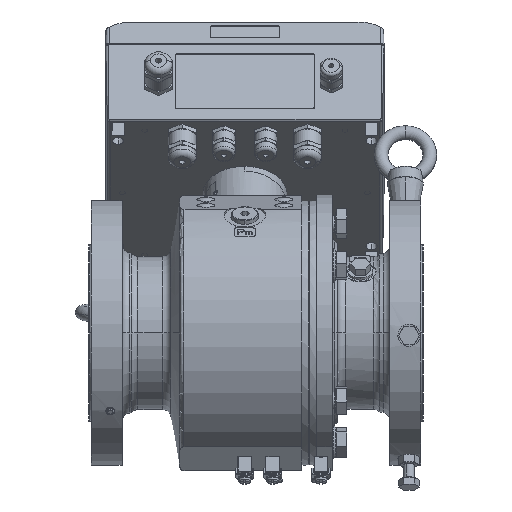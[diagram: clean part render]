
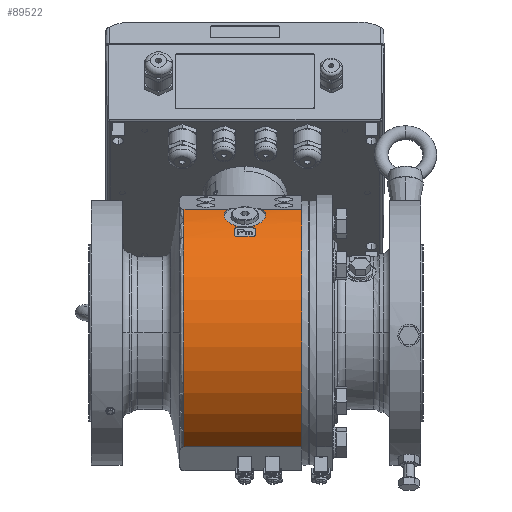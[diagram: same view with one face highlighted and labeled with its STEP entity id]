
A CAD part, front view. The second image highlights one B-rep face of the part: STEP entity #89522.
In plain terms, the highlighted cylindrical face has radius 99 mm (diameter 198 mm), a partial arc.
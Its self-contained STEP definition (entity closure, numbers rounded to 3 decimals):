
#17492=DIRECTION('',(-1.,0.,0.));
#17493=VECTOR('',#17492,28.404);
#17494=CARTESIAN_POINT('',(41.,-43.834,88.767));
#17495=LINE('4592',#17494,#17493);
#17499=CARTESIAN_POINT('',(41.,0.,0.));
#17500=DIRECTION('',(1.,0.,0.));
#17501=DIRECTION('',(0.,-0.443,0.897));
#17502=AXIS2_PLACEMENT_3D('',#17499,#17500,#17501);
#17507=DIRECTION('',(-1.,0.,0.));
#17508=VECTOR('',#17507,84.724);
#17509=CARTESIAN_POINT('',(41.,-55.85,-81.742));
#17510=LINE('4583',#17509,#17508);
#17514=DIRECTION('',(-1.,0.,0.));
#17515=VECTOR('',#17514,31.128);
#17516=CARTESIAN_POINT('',(-12.596,-43.834,
88.767));
#17517=LINE('4593',#17516,#17515);
#17866=CARTESIAN_POINT('',(-43.724,0.,0.));
#17867=DIRECTION('',(1.,0.,0.));
#17868=DIRECTION('',(0.,-0.443,0.897));
#17869=AXIS2_PLACEMENT_3D('',#17866,#17867,#17868);
#32424=CARTESIAN_POINT('',(12.596,-43.834,
88.767));
#32425=CARTESIAN_POINT('',(12.748,-44.045,
88.663));
#32426=CARTESIAN_POINT('',(13.038,-44.474,
88.449));
#32427=CARTESIAN_POINT('',(13.433,-45.135,
88.113));
#32428=CARTESIAN_POINT('',(13.785,-45.811,
87.764));
#32429=CARTESIAN_POINT('',(14.094,-46.5,
87.401));
#32430=CARTESIAN_POINT('',(14.359,-47.198,
87.026));
#32431=CARTESIAN_POINT('',(14.579,-47.905,
86.639));
#32432=CARTESIAN_POINT('',(14.754,-48.616,
86.242));
#32433=CARTESIAN_POINT('',(14.884,-49.332,
85.835));
#32434=CARTESIAN_POINT('',(14.968,-50.048,
85.419));
#32435=CARTESIAN_POINT('',(15.005,-50.764,
84.996));
#32436=CARTESIAN_POINT('',(14.997,-51.477,
84.566));
#32437=CARTESIAN_POINT('',(14.942,-52.184,
84.131));
#32438=CARTESIAN_POINT('',(14.842,-52.886,
83.692));
#32439=CARTESIAN_POINT('',(14.695,-53.577,
83.251));
#32440=CARTESIAN_POINT('',(14.503,-54.258,
82.809));
#32441=CARTESIAN_POINT('',(14.266,-54.926,
82.367));
#32442=CARTESIAN_POINT('',(13.985,-55.58,
81.927));
#32443=CARTESIAN_POINT('',(13.66,-56.217,
81.491));
#32444=CARTESIAN_POINT('',(13.292,-56.836,
81.061));
#32445=CARTESIAN_POINT('',(12.882,-57.435,
80.637));
#32446=CARTESIAN_POINT('',(12.432,-58.011,
80.224));
#32447=CARTESIAN_POINT('',(11.942,-58.565,
79.82));
#32448=CARTESIAN_POINT('',(11.415,-59.093,
79.43));
#32449=CARTESIAN_POINT('',(10.851,-59.595,
79.054));
#32450=CARTESIAN_POINT('',(10.254,-60.069,
78.695));
#32451=CARTESIAN_POINT('',(9.625,-60.513,
78.353));
#32452=CARTESIAN_POINT('',(8.965,-60.927,
78.032));
#32453=CARTESIAN_POINT('',(8.279,-61.31,
77.732));
#32454=CARTESIAN_POINT('',(7.566,-61.66,
77.454));
#32455=CARTESIAN_POINT('',(6.831,-61.977,
77.201));
#32456=CARTESIAN_POINT('',(6.075,-62.26,
76.972));
#32457=CARTESIAN_POINT('',(5.301,-62.508,
76.771));
#32458=CARTESIAN_POINT('',(4.512,-62.722,
76.596));
#32459=CARTESIAN_POINT('',(3.709,-62.901,
76.449));
#32460=CARTESIAN_POINT('',(2.896,-63.044,
76.331));
#32461=CARTESIAN_POINT('',(2.074,-63.151,
76.242));
#32462=CARTESIAN_POINT('',(1.247,-63.223,
76.183));
#32463=CARTESIAN_POINT('',(0.416,-63.259,
76.153));
#32464=CARTESIAN_POINT('',(-0.416,-63.259,
76.153));
#32465=CARTESIAN_POINT('',(-1.247,-63.223,
76.183));
#32466=CARTESIAN_POINT('',(-2.074,-63.151,
76.242));
#32467=CARTESIAN_POINT('',(-2.896,-63.044,
76.331));
#32468=CARTESIAN_POINT('',(-3.709,-62.901,
76.449));
#32469=CARTESIAN_POINT('',(-4.512,-62.722,
76.596));
#32470=CARTESIAN_POINT('',(-5.301,-62.508,
76.771));
#32471=CARTESIAN_POINT('',(-6.075,-62.26,
76.972));
#32472=CARTESIAN_POINT('',(-6.831,-61.977,
77.201));
#32473=CARTESIAN_POINT('',(-7.566,-61.66,
77.454));
#32474=CARTESIAN_POINT('',(-8.279,-61.31,
77.732));
#32475=CARTESIAN_POINT('',(-8.965,-60.927,
78.032));
#32476=CARTESIAN_POINT('',(-9.625,-60.513,
78.353));
#32477=CARTESIAN_POINT('',(-10.254,-60.069,
78.695));
#32478=CARTESIAN_POINT('',(-10.851,-59.595,
79.054));
#32479=CARTESIAN_POINT('',(-11.415,-59.093,
79.43));
#32480=CARTESIAN_POINT('',(-11.942,-58.565,
79.82));
#32481=CARTESIAN_POINT('',(-12.432,-58.011,
80.224));
#32482=CARTESIAN_POINT('',(-12.882,-57.435,
80.637));
#32483=CARTESIAN_POINT('',(-13.292,-56.836,
81.061));
#32484=CARTESIAN_POINT('',(-13.66,-56.217,
81.491));
#32485=CARTESIAN_POINT('',(-13.985,-55.58,
81.927));
#32486=CARTESIAN_POINT('',(-14.266,-54.926,
82.367));
#32487=CARTESIAN_POINT('',(-14.503,-54.258,
82.809));
#32488=CARTESIAN_POINT('',(-14.695,-53.577,
83.251));
#32489=CARTESIAN_POINT('',(-14.842,-52.886,
83.692));
#32490=CARTESIAN_POINT('',(-14.942,-52.184,
84.131));
#32491=CARTESIAN_POINT('',(-14.997,-51.477,
84.566));
#32492=CARTESIAN_POINT('',(-15.005,-50.764,
84.996));
#32493=CARTESIAN_POINT('',(-14.968,-50.048,
85.419));
#32494=CARTESIAN_POINT('',(-14.884,-49.332,
85.835));
#32495=CARTESIAN_POINT('',(-14.754,-48.616,
86.242));
#32496=CARTESIAN_POINT('',(-14.579,-47.905,
86.639));
#32497=CARTESIAN_POINT('',(-14.359,-47.198,
87.026));
#32498=CARTESIAN_POINT('',(-14.094,-46.5,
87.401));
#32499=CARTESIAN_POINT('',(-13.785,-45.811,
87.764));
#32500=CARTESIAN_POINT('',(-13.433,-45.135,
88.113));
#32501=CARTESIAN_POINT('',(-13.038,-44.474,
88.449));
#32502=CARTESIAN_POINT('',(-12.748,-44.045,
88.663));
#32503=CARTESIAN_POINT('',(-12.596,-43.834,
88.767));
#67933=CARTESIAN_POINT('',(41.,-55.85,-81.742));
#67934=CARTESIAN_POINT('',(-43.724,-55.85,
-81.742));
#67935=VERTEX_POINT('',#67933);
#67936=VERTEX_POINT('',#67934);
#67941=CARTESIAN_POINT('',(41.,-43.834,88.767));
#67942=CARTESIAN_POINT('',(12.596,-43.834,
88.767));
#67943=VERTEX_POINT('',#67941);
#67944=VERTEX_POINT('',#67942);
#67945=CARTESIAN_POINT('',(-12.596,-43.834,
88.767));
#67946=CARTESIAN_POINT('',(-43.724,-43.834,
88.767));
#67947=VERTEX_POINT('',#67945);
#67948=VERTEX_POINT('',#67946);
#89505=CARTESIAN_POINT('',(58.3,0.,0.));
#89506=DIRECTION('',(-1.,0.,0.));
#89507=DIRECTION('',(0.,1.,0.));
#89508=AXIS2_PLACEMENT_3D('',#89505,#89506,#89507);
#89509=CYLINDRICAL_SURFACE('3999',#89508,99.);
#89510=ORIENTED_EDGE('4592',*,*,#89452,.F.);
#89512=ORIENTED_EDGE('4597',*,*,#89511,.T.);
#89514=ORIENTED_EDGE('4583',*,*,#89513,.T.);
#89516=ORIENTED_EDGE('4599',*,*,#89515,.F.);
#89517=ORIENTED_EDGE('4593',*,*,#89460,.F.);
#89519=ORIENTED_EDGE('4621',*,*,#89518,.F.);
#89520=EDGE_LOOP('3999',(#89510,#89512,#89514,#89516,#89517,#89519));
#89521=FACE_OUTER_BOUND('3999',#89520,.F.);
#17503=CIRCLE('4597',#17502,99.);
#17870=CIRCLE('4599',#17869,99.);
#32504=B_SPLINE_CURVE_WITH_KNOTS('4621',3,(#32424,#32425,#32426,#32427,#32428,
#32429,#32430,#32431,#32432,#32433,#32434,#32435,#32436,#32437,#32438,#32439,
#32440,#32441,#32442,#32443,#32444,#32445,#32446,#32447,#32448,#32449,#32450,
#32451,#32452,#32453,#32454,#32455,#32456,#32457,#32458,#32459,#32460,#32461,
#32462,#32463,#32464,#32465,#32466,#32467,#32468,#32469,#32470,#32471,#32472,
#32473,#32474,#32475,#32476,#32477,#32478,#32479,#32480,#32481,#32482,#32483,
#32484,#32485,#32486,#32487,#32488,#32489,#32490,#32491,#32492,#32493,#32494,
#32495,#32496,#32497,#32498,#32499,#32500,#32501,#32502,#32503),.UNSPECIFIED.,
.F.,.F.,(4,1,1,1,1,1,1,1,1,1,1,1,1,1,1,1,1,1,1,1,1,1,1,1,1,1,1,1,1,1,1,1,1,1,1,
1,1,1,1,1,1,1,1,1,1,1,1,1,1,1,1,1,1,1,1,1,1,1,1,1,1,1,1,1,1,1,1,1,1,1,1,1,1,1,1,
1,1,4),(0.,0.013,0.026,0.039,
0.052,0.065,0.078,0.091,
0.104,0.117,0.13,0.143,
0.156,0.169,0.182,0.195,
0.208,0.221,0.234,0.247,
0.26,0.273,0.286,0.299,
0.312,0.325,0.338,0.351,
0.364,0.377,0.39,0.403,
0.416,0.429,0.442,0.455,
0.468,0.481,0.494,0.506,
0.519,0.532,0.545,0.558,
0.571,0.584,0.597,0.61,
0.623,0.636,0.649,0.662,
0.675,0.688,0.701,0.714,
0.727,0.74,0.753,0.766,
0.779,0.792,0.805,0.818,
0.831,0.844,0.857,0.87,
0.883,0.896,0.909,0.922,
0.935,0.948,0.961,0.974,
0.987,1.),.UNSPECIFIED.);
#89452=EDGE_CURVE('4592',#67943,#67944,#17495,.T.);
#89460=EDGE_CURVE('4593',#67947,#67948,#17517,.T.);
#89511=EDGE_CURVE('4597',#67943,#67935,#17503,.T.);
#89513=EDGE_CURVE('4583',#67935,#67936,#17510,.T.);
#89515=EDGE_CURVE('4599',#67948,#67936,#17870,.T.);
#89518=EDGE_CURVE('4621',#67944,#67947,#32504,.T.);
#89522=ADVANCED_FACE('3999',(#89521),#89509,.T.);
